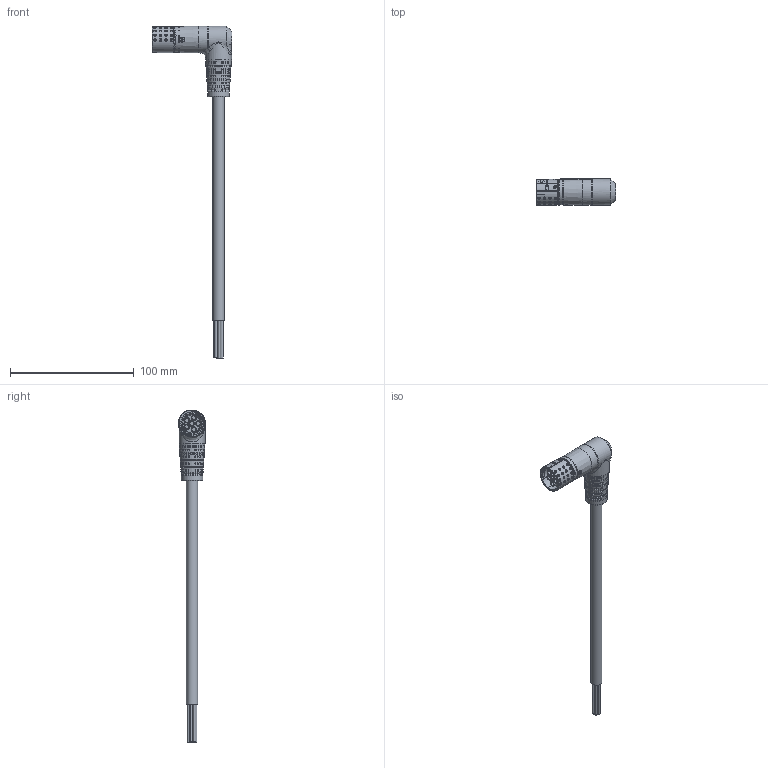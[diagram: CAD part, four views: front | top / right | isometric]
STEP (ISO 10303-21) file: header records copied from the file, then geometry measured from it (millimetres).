
FILE_DESCRIPTION (( 'STEP AP203' ), '1' );
FILE_NAME ('1146384_W-TEC_15K_GLATT-BU-90°L_STEP.STEP', '2023-09-04T06:45:10', ( '' ), ( '' ), 'SwSTEP 2.0', 'SolidWorks 2021', '' );
FILE_SCHEMA (( 'CONFIG_CONTROL_DESIGN' ));
Length unit declared in the file: millimetre
Products named in the file (1): 1146384_W-TEC_15K_GLATT-BU-90袂_STEP
Bounding box: 63.82 x 21.87 x 267.77 mm (x, y, z)
Surface area: 17727.2 mm2 (no closed solid volume)
Topology: 0 solids, 21 shells, 537 faces, 2120 edges, 1513 vertices
Faces by surface type: bspline 254, plane 150, cylinder 105, cone 25, torus 3
Full cylindrical faces by diameter (mm): 2 x5, 3.3 x6, 4 x1, 4.2 x3, 9.1 x1, 11.1 x1, 17.397 x1, 18.304 x1, 18.4 x1, 21.038 x1, 21.72 x1
Entity records: 41303 total; most frequent: CARTESIAN_POINT 27549, ORIENTED_EDGE 3040, EDGE_CURVE 2004, DIRECTION 1869, VERTEX_POINT 1484, B_SPLINE_CURVE_WITH_KNOTS 1001, AXIS2_PLACEMENT_3D 679, EDGE_LOOP 663
